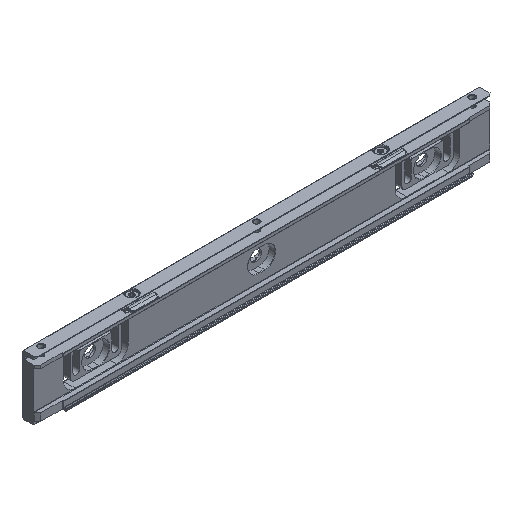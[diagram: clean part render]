
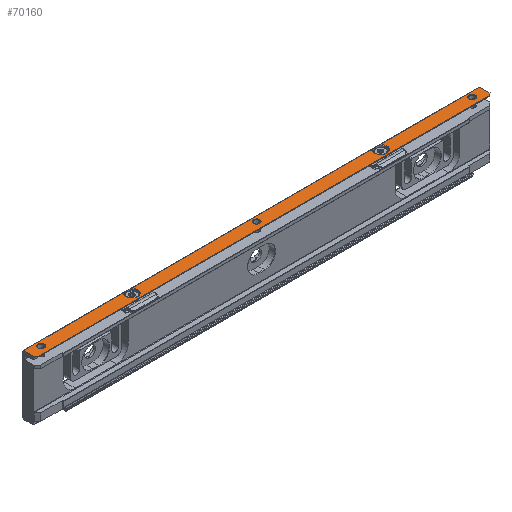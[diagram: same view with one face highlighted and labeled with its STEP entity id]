
A CAD part, isometric view. The second image highlights one B-rep face of the part: STEP entity #70160.
In plain terms, the highlighted planar face has unit normal (0, 0, 1).
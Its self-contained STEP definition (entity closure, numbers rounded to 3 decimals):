
#15600=CARTESIAN_POINT('',(-147.5,2.75,
83.483));
#15610=VERTEX_POINT('',#15600);
#15640=CARTESIAN_POINT('',(-153.212,8.462,
83.483));
#15650=DIRECTION('',(-0.707,0.707,
0.));
#15660=VECTOR('',#15650,1.);
#15670=LINE('',#15640,#15660);
#15680=CARTESIAN_POINT('',(-146.2,1.45,
83.483));
#15690=VERTEX_POINT('',#15680);
#15700=EDGE_CURVE('',#15690,#15610,#15670,.T.);
#29640=CARTESIAN_POINT('',(-147.5,8.917,
83.483));
#29650=VERTEX_POINT('',#29640);
#29680=CARTESIAN_POINT('',(-147.5,8.463,
83.483));
#29690=DIRECTION('',(0.,1.,0.));
#29700=VECTOR('',#29690,1.);
#29710=LINE('',#29680,#29700);
#29720=EDGE_CURVE('',#15610,#29650,#29710,.T.);
#46730=CARTESIAN_POINT('',(-82.734,8.917,
83.483));
#46740=VERTEX_POINT('',#46730);
#47100=CARTESIAN_POINT('',(62.364,8.917,
83.483));
#47110=VERTEX_POINT('',#47100);
#47140=CARTESIAN_POINT('',(-5.,8.917,
83.483));
#47150=DIRECTION('',(-1.,0.,0.));
#47160=VECTOR('',#47150,1.);
#47170=LINE('',#47140,#47160);
#47180=EDGE_CURVE('',#47110,#46740,#47170,.T.);
#58040=CARTESIAN_POINT('',(-87.266,8.917,
83.483));
#58050=VERTEX_POINT('',#58040);
#58140=CARTESIAN_POINT('',(-85.,6.25,
83.483));
#58150=DIRECTION('',(0.,0.,-1.));
#58160=DIRECTION('',(-1.,0.,0.));
#58170=AXIS2_PLACEMENT_3D('',#58140,#58150,#58160);
#58180=CIRCLE('',#58170,3.5);
#58190=EDGE_CURVE('',#46740,#58050,#58180,.T.);
#68590=CARTESIAN_POINT('',(126.2,1.45,
83.483));
#68600=VERTEX_POINT('',#68590);
#68650=CARTESIAN_POINT('',(-80.,1.45,
83.483));
#68660=DIRECTION('',(1.,0.,0.));
#68670=VECTOR('',#68660,1.);
#68680=LINE('',#68650,#68670);
#68690=EDGE_CURVE('',#15690,#68600,#68680,.T.);
#69220=CARTESIAN_POINT('',(-5.,10.,
83.483));
#69230=DIRECTION('',(0.,0.,1.));
#69240=DIRECTION('',(0.,1.,0.));
#69250=AXIS2_PLACEMENT_3D('',#69220,#69230,#69240);
#69260=PLANE('',#69250);
#69270=CARTESIAN_POINT('',(65.,6.25,
83.483));
#69280=DIRECTION('',(0.,0.,1.));
#69290=DIRECTION('',(1.,0.,0.));
#69300=AXIS2_PLACEMENT_3D('',#69270,#69280,#69290);
#69310=CIRCLE('',#69300,3.75);
#69320=CARTESIAN_POINT('',(67.636,8.917,
83.483));
#69330=VERTEX_POINT('',#69320);
#69340=EDGE_CURVE('',#47110,#69330,#69310,.T.);
#69350=ORIENTED_EDGE('',*,*,#69340,.F.);
#69360=CARTESIAN_POINT('',(35.,8.917,
83.483));
#69370=DIRECTION('',(1.,0.,0.));
#69380=VECTOR('',#69370,1.);
#69390=LINE('',#69360,#69380);
#69400=CARTESIAN_POINT('',(127.5,8.917,83.483));
#69410=VERTEX_POINT('',#69400);
#69420=EDGE_CURVE('',#69330,#69410,#69390,.T.);
#69430=ORIENTED_EDGE('',*,*,#69420,.F.);
#69440=CARTESIAN_POINT('',(127.5,8.463,83.483));
#69450=DIRECTION('',(0.,1.,0.));
#69460=VECTOR('',#69450,1.);
#69470=LINE('',#69440,#69460);
#69480=CARTESIAN_POINT('',(127.5,2.75,83.483));
#69490=VERTEX_POINT('',#69480);
#69500=EDGE_CURVE('',#69490,#69410,#69470,.T.);
#69510=ORIENTED_EDGE('',*,*,#69500,.T.);
#69520=CARTESIAN_POINT('',(133.212,8.462,
83.483));
#69530=DIRECTION('',(0.707,0.707,
0.));
#69540=VECTOR('',#69530,1.);
#69550=LINE('',#69520,#69540);
#69560=EDGE_CURVE('',#68600,#69490,#69550,.T.);
#69570=ORIENTED_EDGE('',*,*,#69560,.T.);
#69580=ORIENTED_EDGE('',*,*,#68690,.T.);
#69590=ORIENTED_EDGE('',*,*,#15700,.F.);
#69600=ORIENTED_EDGE('',*,*,#29720,.F.);
#69610=CARTESIAN_POINT('',(-5.,8.917,
83.483));
#69620=DIRECTION('',(-1.,0.,0.));
#69630=VECTOR('',#69620,1.);
#69640=LINE('',#69610,#69630);
#69650=EDGE_CURVE('',#58050,#29650,#69640,.T.);
#69660=ORIENTED_EDGE('',*,*,#69650,.T.);
#69670=ORIENTED_EDGE('',*,*,#58190,.T.);
#69680=ORIENTED_EDGE('',*,*,#47180,.T.);
#69690=EDGE_LOOP('',(#69680,#69670,#69660,#69600,#69590,#69580,#69570,
#69510,#69430,#69350));
#69700=FACE_OUTER_BOUND('',#69690,.T.);
#69710=CARTESIAN_POINT('',(-140.,6.,
83.483));
#69720=DIRECTION('',(0.,0.,1.));
#69730=DIRECTION('',(0.,1.,0.));
#69740=AXIS2_PLACEMENT_3D('',#69710,#69720,#69730);
#69750=CIRCLE('',#69740,1.9);
#69760=CARTESIAN_POINT('',(-138.1,6.,
83.483));
#69770=VERTEX_POINT('',#69760);
#69780=CARTESIAN_POINT('',(-141.9,6.,
83.483));
#69790=VERTEX_POINT('',#69780);
#69800=EDGE_CURVE('',#69770,#69790,#69750,.T.);
#69810=ORIENTED_EDGE('',*,*,#69800,.F.);
#69820=EDGE_CURVE('',#69790,#69770,#69750,.T.);
#69830=ORIENTED_EDGE('',*,*,#69820,.F.);
#69840=EDGE_LOOP('',(#69830,#69810));
#69850=FACE_BOUND('',#69840,.T.);
#69860=CARTESIAN_POINT('',(-10.,6.,
83.483));
#69870=DIRECTION('',(0.,0.,1.));
#69880=DIRECTION('',(0.,1.,0.));
#69890=AXIS2_PLACEMENT_3D('',#69860,#69870,#69880);
#69900=CIRCLE('',#69890,1.9);
#69910=CARTESIAN_POINT('',(-8.1,6.,
83.483));
#69920=VERTEX_POINT('',#69910);
#69930=CARTESIAN_POINT('',(-11.9,6.,
83.483));
#69940=VERTEX_POINT('',#69930);
#69950=EDGE_CURVE('',#69920,#69940,#69900,.T.);
#69960=ORIENTED_EDGE('',*,*,#69950,.F.);
#69970=EDGE_CURVE('',#69940,#69920,#69900,.T.);
#69980=ORIENTED_EDGE('',*,*,#69970,.F.);
#69990=EDGE_LOOP('',(#69980,#69960));
#70000=FACE_BOUND('',#69990,.T.);
#70010=CARTESIAN_POINT('',(120.,6.,83.483));
#70020=DIRECTION('',(0.,0.,1.));
#70030=DIRECTION('',(0.,1.,0.));
#70040=AXIS2_PLACEMENT_3D('',#70010,#70020,#70030);
#70050=CIRCLE('',#70040,1.9);
#70060=CARTESIAN_POINT('',(121.9,6.,83.483));
#70070=VERTEX_POINT('',#70060);
#70080=CARTESIAN_POINT('',(118.1,6.,83.483));
#70090=VERTEX_POINT('',#70080);
#70100=EDGE_CURVE('',#70070,#70090,#70050,.T.);
#70110=ORIENTED_EDGE('',*,*,#70100,.F.);
#70120=EDGE_CURVE('',#70090,#70070,#70050,.T.);
#70130=ORIENTED_EDGE('',*,*,#70120,.F.);
#70140=EDGE_LOOP('',(#70130,#70110));
#70150=FACE_BOUND('',#70140,.T.);
#70160=ADVANCED_FACE('',(#69700,#69850,#70000,#70150),#69260,.T.);
